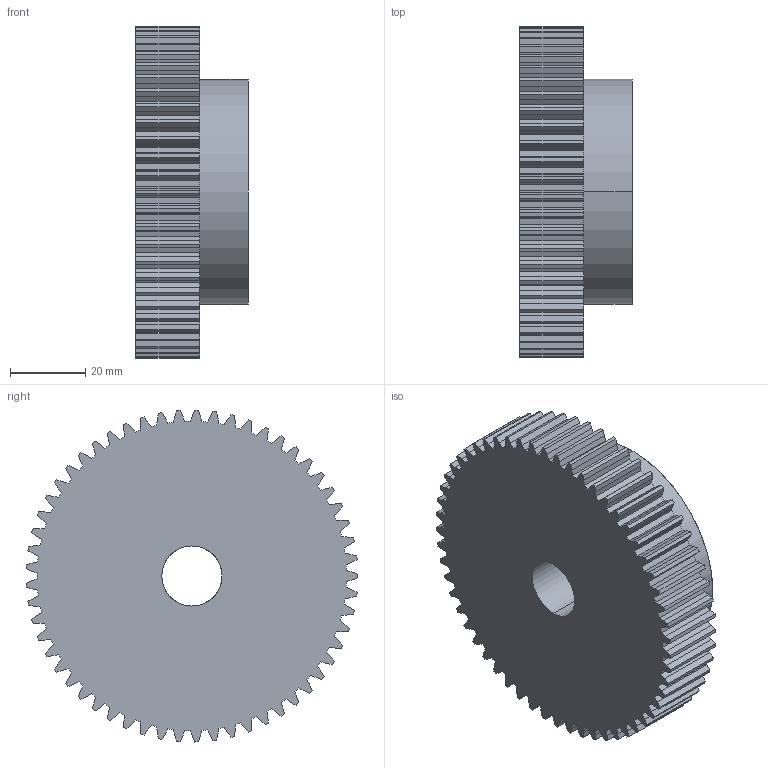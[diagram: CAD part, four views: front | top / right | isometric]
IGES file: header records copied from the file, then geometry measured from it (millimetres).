
Start section: SolidWorks IGES file using analytic representation for surfaces
Global section: file name: C:\Users\Honza\Desktop\Matis (Hotove)\Èelní ozubená kola\PM\MODUL 1,5\PM 27057.IGS; native system: SolidWorks 2010; preprocessor: SolidWorks 2010; author: Honza; date: 130924.133813; units: millimetre
Bounding box: 30 x 88.46 x 88.49 mm (x, y, z)
Surface area: 23577.8 mm2 (no closed solid volume)
Topology: 0 solids, 0 shells, 349 faces, 2261 edges, 2261 vertices
Faces by surface type: bspline 231, revolution 118
